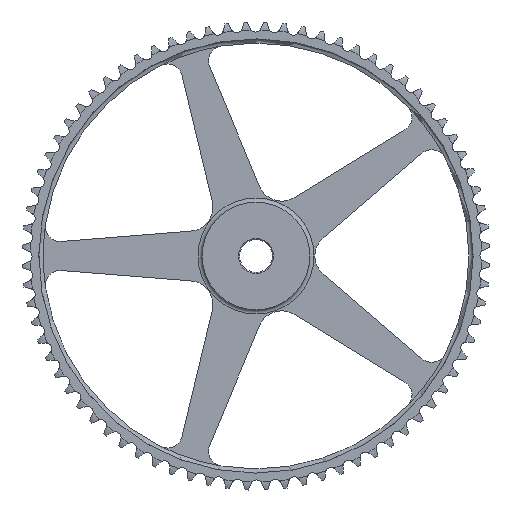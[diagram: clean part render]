
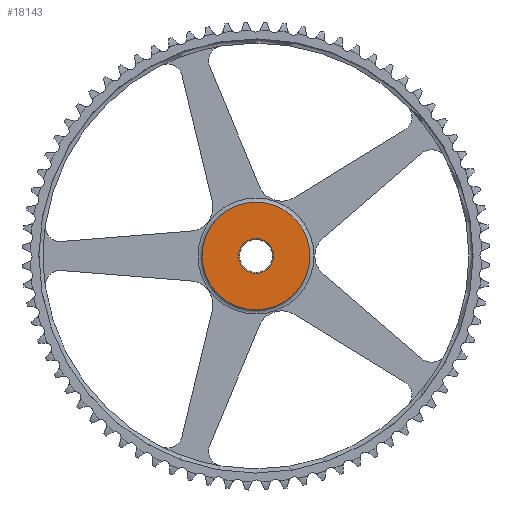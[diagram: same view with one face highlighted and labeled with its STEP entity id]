
A CAD part, left-side view. The second image highlights one B-rep face of the part: STEP entity #18143.
In plain terms, the highlighted planar face has unit normal (-1, 0, 0).
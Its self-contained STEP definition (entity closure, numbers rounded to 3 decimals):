
#37=FACE_BOUND('',#3332,.T.);
#76=PLANE('',#20109);
#1373=CIRCLE('',#20108,90.);
#1374=CIRCLE('',#20110,29.);
#2348=FACE_OUTER_BOUND('',#3331,.T.);
#3331=EDGE_LOOP('',(#16188));
#3332=EDGE_LOOP('',(#16189));
#7844=VERTEX_POINT('',#35938);
#7845=VERTEX_POINT('',#35941);
#10741=EDGE_CURVE('',#7844,#7844,#1373,.T.);
#10742=EDGE_CURVE('',#7845,#7845,#1374,.T.);
#16188=ORIENTED_EDGE('',*,*,#10741,.T.);
#16189=ORIENTED_EDGE('',*,*,#10742,.F.);
#18143=ADVANCED_FACE('',(#2348,#37),#76,.T.);
#20108=AXIS2_PLACEMENT_3D('',#35939,#24711,#24712);
#20109=AXIS2_PLACEMENT_3D('',#35940,#24713,#24714);
#20110=AXIS2_PLACEMENT_3D('',#35942,#24715,#24716);
#24711=DIRECTION('center_axis',(-1.,0.,0.));
#24712=DIRECTION('ref_axis',(0.,0.,1.));
#24713=DIRECTION('center_axis',(-1.,0.,0.));
#24714=DIRECTION('ref_axis',(0.,0.,1.));
#24715=DIRECTION('center_axis',(-1.,0.,0.));
#24716=DIRECTION('ref_axis',(0.,0.,1.));
#35938=CARTESIAN_POINT('',(4.139,293.869,0.));
#35939=CARTESIAN_POINT('Origin',(4.139,383.869,0.));
#35940=CARTESIAN_POINT('Origin',(4.139,354.869,0.));
#35941=CARTESIAN_POINT('',(4.139,354.869,0.));
#35942=CARTESIAN_POINT('Origin',(4.139,383.869,0.));
